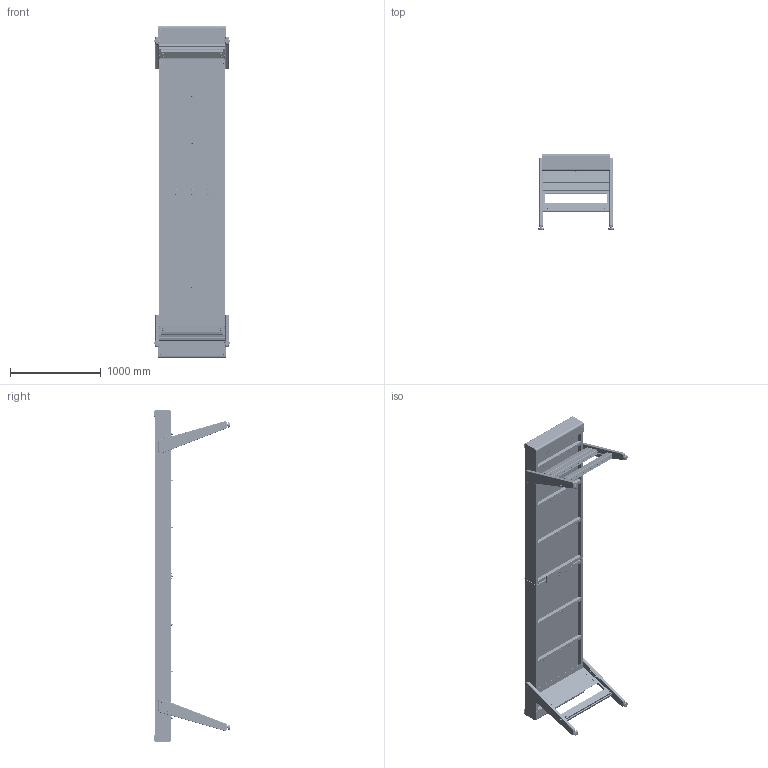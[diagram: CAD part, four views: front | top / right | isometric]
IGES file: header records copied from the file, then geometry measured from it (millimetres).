
Start section: SolidWorks IGES file using analytic representation for surfaces
Global section: file name: C:\Users\RS-BARCELONA\Desktop\Arxius Maria\TRACK-12 1N.IGS; native system: SolidWorks 2020; preprocessor: SolidWorks 2020; author: RS-BARCELONA; date: 231117.122537; units: millimetre
Bounding box: 831.9 x 837.65 x 3658.82 mm (x, y, z)
Surface area: 34342833.6 mm2 (no closed solid volume)
Topology: 0 solids, 0 shells, 11942 faces, 155374 edges, 155234 vertices
Faces by surface type: bspline 7055, revolution 4887
